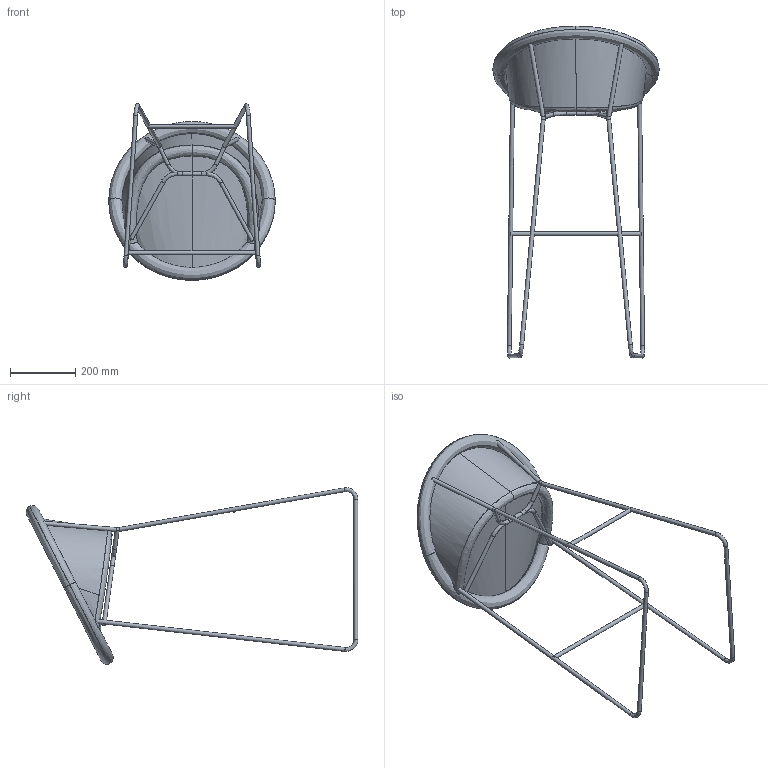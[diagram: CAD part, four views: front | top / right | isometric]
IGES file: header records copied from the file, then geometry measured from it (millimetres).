
Global section: file name: VincentSheppard_JoeOakBarstool; native system: unknown; preprocessor: unknown; author: ict@vincentsheppard.com; organization: unknown; date: 20180606.172323; units: millimetre
Bounding box: 510 x 1017.91 x 542.05 mm (x, y, z)
Volume: 3344659.2 mm3; surface area: 840936.5 mm2
Topology: 7 solids, 7 shells, 57 faces, 334 edges, 297 vertices
Faces by surface type: bspline 57
